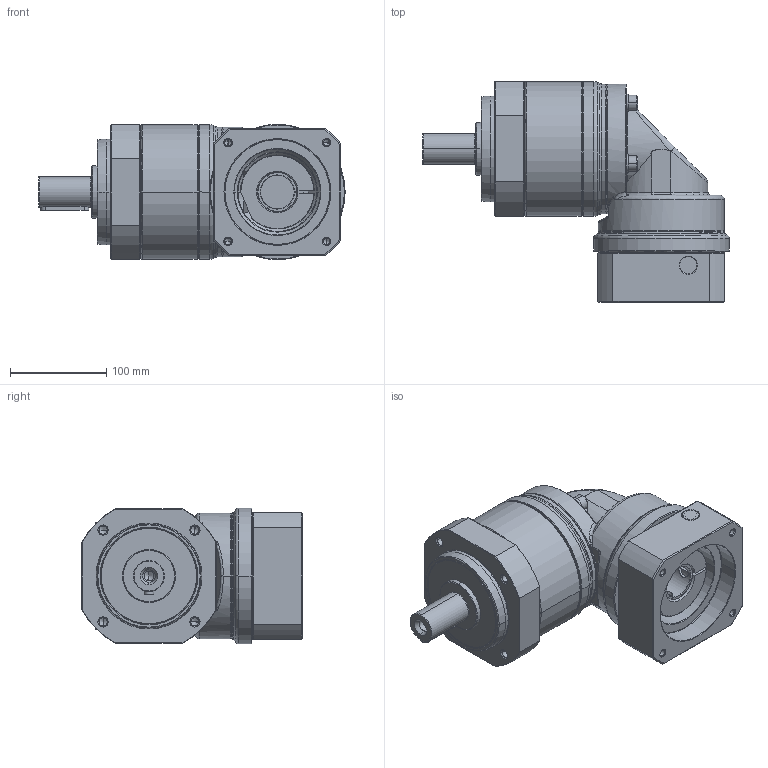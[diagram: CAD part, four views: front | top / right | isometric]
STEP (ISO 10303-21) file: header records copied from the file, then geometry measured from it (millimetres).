
FILE_DESCRIPTION((''),'2;1');
FILE_NAME('PS2R-E_1ST_35-P0411800101_ASM','2016-05-30T',('d01943'),(''),'PRO/ENGINEER BY PARAMETRIC TECHNOLOGY CORPORATION, 2008410','PRO/ENGINEER BY PARAMETRIC TECHNOLOGY CORPORATION, 2008410','');
FILE_SCHEMA(('CONFIG_CONTROL_DESIGN'));
Length unit declared in the file: millimetre
Products named in the file (12): P1328510001; P0250500001; P0350501401; P1349500001; P1017500001; P0713504001; P0503800010; P1350500401; P0411800101; P1702600001; 2111BA10040; PS2R-E_1ST_35-P0411800101_ASM
Assembly tree (14 placements, depth 2):
  PS2R-E_1ST_35-P0411800101_ASM
    P1328510001
    P0250500001
    P0350501401
    P1349500001
    P1017500001
    P0713504001
    P0503800010
    P1350500401
    P0411800101
    P1702600001
    2111BA10040  x4
Bounding box: 318.5 x 229.5 x 141 mm (x, y, z)
Volume: 2880665.7 mm3; surface area: 481046.4 mm2
Topology: 14 solids, 14 shells, 721 faces, 1590 edges, 917 vertices
Faces by surface type: cylinder 212, cone 210, plane 167, torus 98, bspline 34
Entity records: 23062 total; most frequent: CARTESIAN_POINT 9191, DIRECTION 3054, ORIENTED_EDGE 2692, EDGE_CURVE 1346, AXIS2_PLACEMENT_3D 1284, VERTEX_POINT 797, EDGE_LOOP 699, CIRCLE 670
